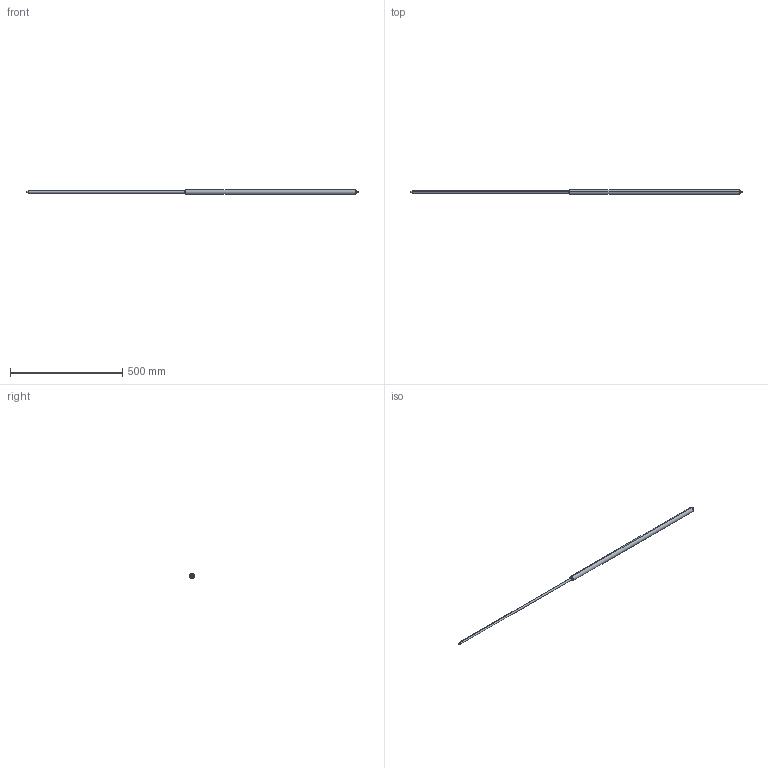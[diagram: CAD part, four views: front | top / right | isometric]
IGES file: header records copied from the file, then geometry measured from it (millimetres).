
Start section: SolidWorks IGES file using analytic representation for surfaces
Bounding box: 1481 x 22 x 22 mm (x, y, z)
Surface area: 75718.9 mm2 (no closed solid volume)
Topology: 0 solids, 0 shells, 25 faces, 336 edges, 336 vertices
Faces by surface type: revolution 16, bspline 9
